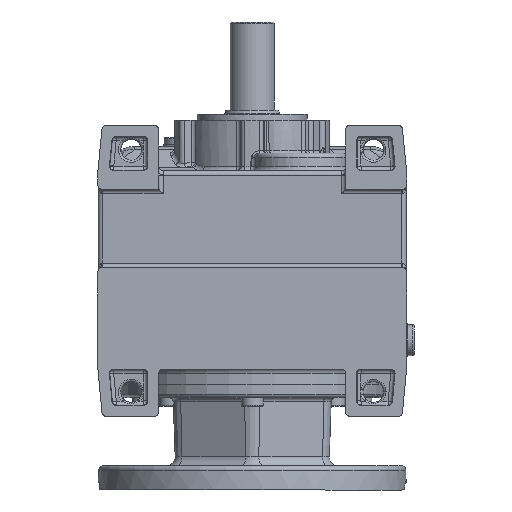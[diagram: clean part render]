
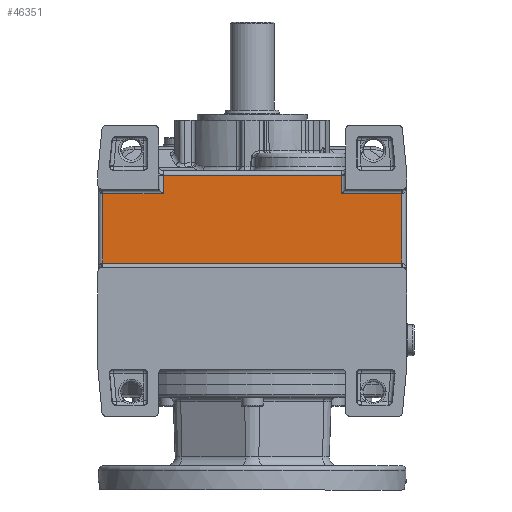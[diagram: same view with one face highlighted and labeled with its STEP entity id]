
A CAD part, front view. The second image highlights one B-rep face of the part: STEP entity #46351.
In plain terms, the highlighted planar face has unit normal (0, -1, 0).
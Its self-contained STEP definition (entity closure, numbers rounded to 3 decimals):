
#41105 = EDGE_CURVE ( 'NONE', #41109, #41227, #92274, .T. ) ;
#41109 = VERTEX_POINT ( 'NONE', #92270 ) ;
#41227 = VERTEX_POINT ( 'NONE', #92372 ) ;
#46351 = ADVANCED_FACE ( 'NONE', ( #95322 ), #95390, .T. ) ;
#46353 = EDGE_LOOP ( 'NONE', ( #46383, #46390, #46396, #46518, #46423, #46452, #46579, #46687 ) ) ;
#46355 = VERTEX_POINT ( 'NONE', #95385 ) ;
#46383 = ORIENTED_EDGE ( 'NONE', *, *, #46385, .T. ) ;
#46385 = EDGE_CURVE ( 'NONE', #46355, #46388, #95464, .T. ) ;
#46388 = VERTEX_POINT ( 'NONE', #95460 ) ;
#46390 = ORIENTED_EDGE ( 'NONE', *, *, #46392, .T. ) ;
#46392 = EDGE_CURVE ( 'NONE', #46388, #46394, #95447, .T. ) ;
#46394 = VERTEX_POINT ( 'NONE', #95443 ) ;
#46396 = ORIENTED_EDGE ( 'NONE', *, *, #46583, .T. ) ;
#46418 = VERTEX_POINT ( 'NONE', #95484 ) ;
#46423 = ORIENTED_EDGE ( 'NONE', *, *, #41105, .T. ) ;
#46452 = ORIENTED_EDGE ( 'NONE', *, *, #46529, .T. ) ;
#46518 = ORIENTED_EDGE ( 'NONE', *, *, #46522, .T. ) ;
#46520 = VERTEX_POINT ( 'NONE', #95544 ) ;
#46522 = EDGE_CURVE ( 'NONE', #46418, #41109, #95543, .T. ) ;
#46529 = EDGE_CURVE ( 'NONE', #41227, #46520, #95578, .T. ) ;
#46579 = ORIENTED_EDGE ( 'NONE', *, *, #46593, .T. ) ;
#46581 = VERTEX_POINT ( 'NONE', #95600 ) ;
#46583 = EDGE_CURVE ( 'NONE', #46394, #46418, #95667, .T. ) ;
#46593 = EDGE_CURVE ( 'NONE', #46520, #46581, #95652, .T. ) ;
#46687 = ORIENTED_EDGE ( 'NONE', *, *, #46689, .T. ) ;
#46689 = EDGE_CURVE ( 'NONE', #46581, #46355, #95711, .T. ) ;
#92270 = CARTESIAN_POINT ( 'NONE',  ( 67.929, -74., -64.93 ) ) ;
#92271 = DIRECTION ( 'NONE',  ( 0., 0., 1. ) ) ;
#92272 = VECTOR ( 'NONE', #92271, 1000. ) ;
#92273 = CARTESIAN_POINT ( 'NONE',  ( 67.929, -74., -113. ) ) ;
#92274 = LINE ( 'NONE', #92273, #92272 ) ;
#92372 = CARTESIAN_POINT ( 'NONE',  ( 67.929, -74., -33.57 ) ) ;
#95322 = FACE_OUTER_BOUND ( 'NONE', #46353, .T. ) ;
#95385 = CARTESIAN_POINT ( 'NONE',  ( -40.43, -74., -25. ) ) ;
#95386 = DIRECTION ( 'NONE',  ( 1., 0., 0. ) ) ;
#95387 = DIRECTION ( 'NONE',  ( 0., -1., 0. ) ) ;
#95388 = CARTESIAN_POINT ( 'NONE',  ( -70., -74., -113. ) ) ;
#95389 = AXIS2_PLACEMENT_3D ( 'NONE', #95388, #95387, #95386 ) ;
#95390 = PLANE ( 'NONE',  #95389 ) ;
#95443 = CARTESIAN_POINT ( 'NONE',  ( -67.929, -74., -33.57 ) ) ;
#95444 = DIRECTION ( 'NONE',  ( -1., 0., 0. ) ) ;
#95445 = VECTOR ( 'NONE', #95444, 1000. ) ;
#95446 = CARTESIAN_POINT ( 'NONE',  ( -67.929, -74., -33.57 ) ) ;
#95447 = LINE ( 'NONE', #95446, #95445 ) ;
#95460 = CARTESIAN_POINT ( 'NONE',  ( -40.43, -74., -33.57 ) ) ;
#95461 = DIRECTION ( 'NONE',  ( 0., 0., -1. ) ) ;
#95462 = VECTOR ( 'NONE', #95461, 1000. ) ;
#95463 = CARTESIAN_POINT ( 'NONE',  ( -40.43, -74., -31.5 ) ) ;
#95464 = LINE ( 'NONE', #95463, #95462 ) ;
#95484 = CARTESIAN_POINT ( 'NONE',  ( -67.929, -74., -64.93 ) ) ;
#95540 = DIRECTION ( 'NONE',  ( 1., 0., 0. ) ) ;
#95541 = VECTOR ( 'NONE', #95540, 1000. ) ;
#95542 = CARTESIAN_POINT ( 'NONE',  ( 67.929, -74., -64.93 ) ) ;
#95543 = LINE ( 'NONE', #95542, #95541 ) ;
#95544 = CARTESIAN_POINT ( 'NONE',  ( 40.43, -74., -33.57 ) ) ;
#95575 = DIRECTION ( 'NONE',  ( -1., 0., 0. ) ) ;
#95576 = VECTOR ( 'NONE', #95575, 1000. ) ;
#95577 = CARTESIAN_POINT ( 'NONE',  ( 40.43, -74., -33.57 ) ) ;
#95578 = LINE ( 'NONE', #95577, #95576 ) ;
#95600 = CARTESIAN_POINT ( 'NONE',  ( 40.43, -74., -25. ) ) ;
#95649 = DIRECTION ( 'NONE',  ( 0., 0., 1. ) ) ;
#95650 = VECTOR ( 'NONE', #95649, 1000. ) ;
#95651 = CARTESIAN_POINT ( 'NONE',  ( 40.43, -74., -25. ) ) ;
#95652 = LINE ( 'NONE', #95651, #95650 ) ;
#95664 = DIRECTION ( 'NONE',  ( 0., 0., -1. ) ) ;
#95665 = VECTOR ( 'NONE', #95664, 1000. ) ;
#95666 = CARTESIAN_POINT ( 'NONE',  ( -67.929, -74., -113. ) ) ;
#95667 = LINE ( 'NONE', #95666, #95665 ) ;
#95711 = LINE ( 'NONE', #95765, #95764 ) ;
#95763 = DIRECTION ( 'NONE',  ( -1., 0., 0. ) ) ;
#95764 = VECTOR ( 'NONE', #95763, 1000. ) ;
#95765 = CARTESIAN_POINT ( 'NONE',  ( -67.999, -74., -25. ) ) ;
